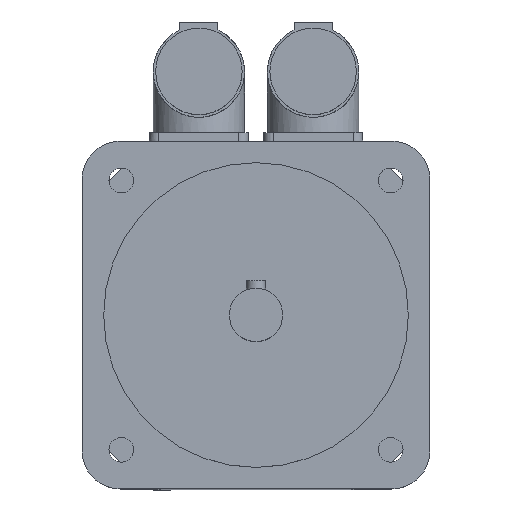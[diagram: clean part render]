
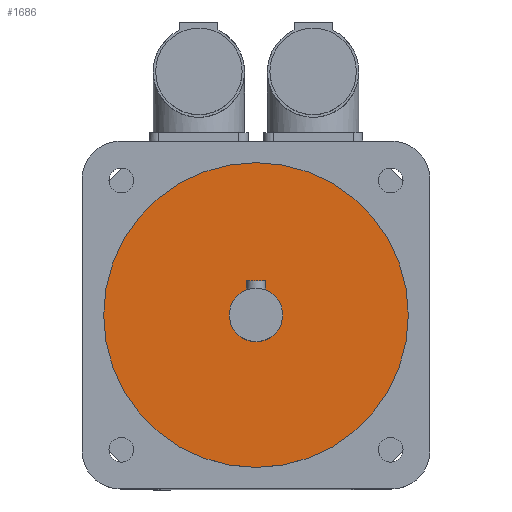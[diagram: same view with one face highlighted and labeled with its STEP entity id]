
A CAD part, top view. The second image highlights one B-rep face of the part: STEP entity #1686.
In plain terms, the highlighted planar face has unit normal (0, 0, 1).
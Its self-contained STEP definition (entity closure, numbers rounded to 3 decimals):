
#28=FACE_BOUND('',#305,.T.);
#53=CIRCLE('',#1788,7.);
#54=CIRCLE('',#1791,40.);
#202=FACE_OUTER_BOUND('',#304,.T.);
#304=EDGE_LOOP('',(#1158));
#305=EDGE_LOOP('',(#1159));
#718=VERTEX_POINT('',#2569);
#719=VERTEX_POINT('',#2573);
#892=EDGE_CURVE('',#718,#718,#53,.T.);
#893=EDGE_CURVE('',#719,#719,#54,.T.);
#1158=ORIENTED_EDGE('',*,*,#893,.T.);
#1159=ORIENTED_EDGE('',*,*,#892,.T.);
#1633=PLANE('',#1793);
#1686=ADVANCED_FACE('',(#202,#28),#1633,.T.);
#1788=AXIS2_PLACEMENT_3D('',#2570,#2000,#2001);
#1791=AXIS2_PLACEMENT_3D('',#2574,#2006,#2007);
#1793=AXIS2_PLACEMENT_3D('',#2577,#2010,#2011);
#2000=DIRECTION('center_axis',(0.,0.,-1.));
#2001=DIRECTION('ref_axis',(-1.,0.,0.));
#2006=DIRECTION('center_axis',(0.,0.,1.));
#2007=DIRECTION('ref_axis',(-1.,0.,0.));
#2010=DIRECTION('center_axis',(0.,0.,1.));
#2011=DIRECTION('ref_axis',(1.,0.,0.));
#2569=CARTESIAN_POINT('',(7.,0.,138.5));
#2570=CARTESIAN_POINT('Origin',(0.,0.,138.5));
#2573=CARTESIAN_POINT('',(40.,0.,138.5));
#2574=CARTESIAN_POINT('Origin',(0.,0.,138.5));
#2577=CARTESIAN_POINT('Origin',(0.,0.,
138.5));
